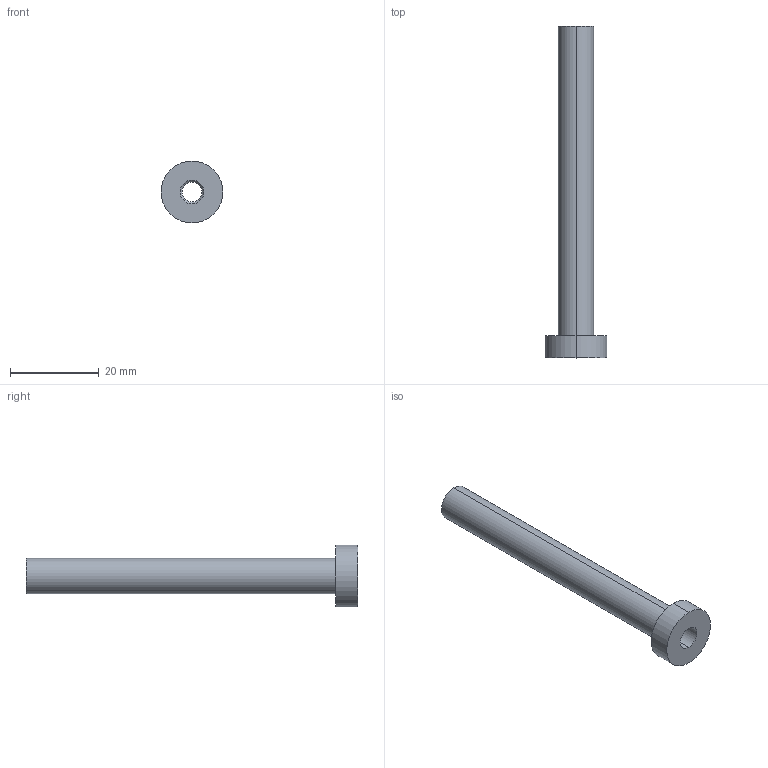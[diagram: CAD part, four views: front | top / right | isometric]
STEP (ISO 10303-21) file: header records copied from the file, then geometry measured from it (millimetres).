
FILE_DESCRIPTION (( 'STEP AP214' ), '1' );
FILE_NAME ('ET-ETN-4,5x75.STEP', '2019-12-16T15:12:03', ( 'August' ), ( '' ), 'SwSTEP 2.0', 'SolidWorks 2018', '' );
FILE_SCHEMA (( 'AUTOMOTIVE_DESIGN' ));
Length unit declared in the file: millimetre
Products named in the file (1): ET-ETN-4,5x75
Bounding box: 14 x 75 x 14 mm (x, y, z)
Volume: 2912 mm3; surface area: 3386.8 mm2
Topology: 1 solids, 1 shells, 13 faces, 26 edges, 16 vertices
Faces by surface type: cylinder 8, plane 3, cone 2
Entity records: 382 total; most frequent: DIRECTION 70, CARTESIAN_POINT 56, ORIENTED_EDGE 52, AXIS2_PLACEMENT_3D 30, EDGE_CURVE 26, VERTEX_POINT 16, EDGE_LOOP 16, CIRCLE 16
